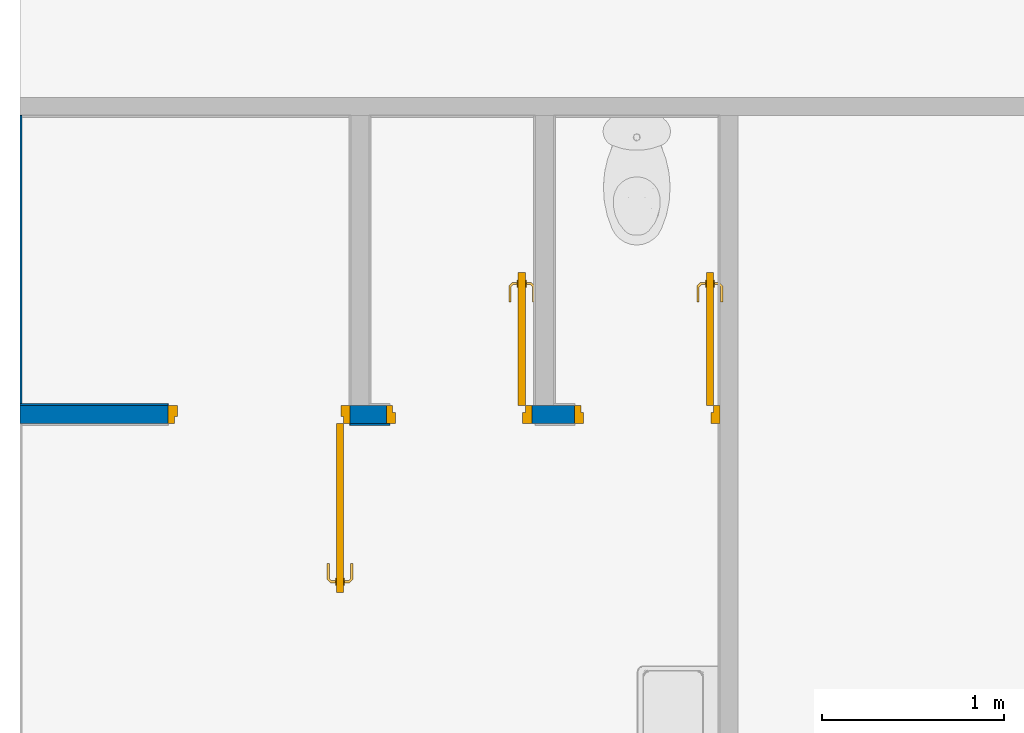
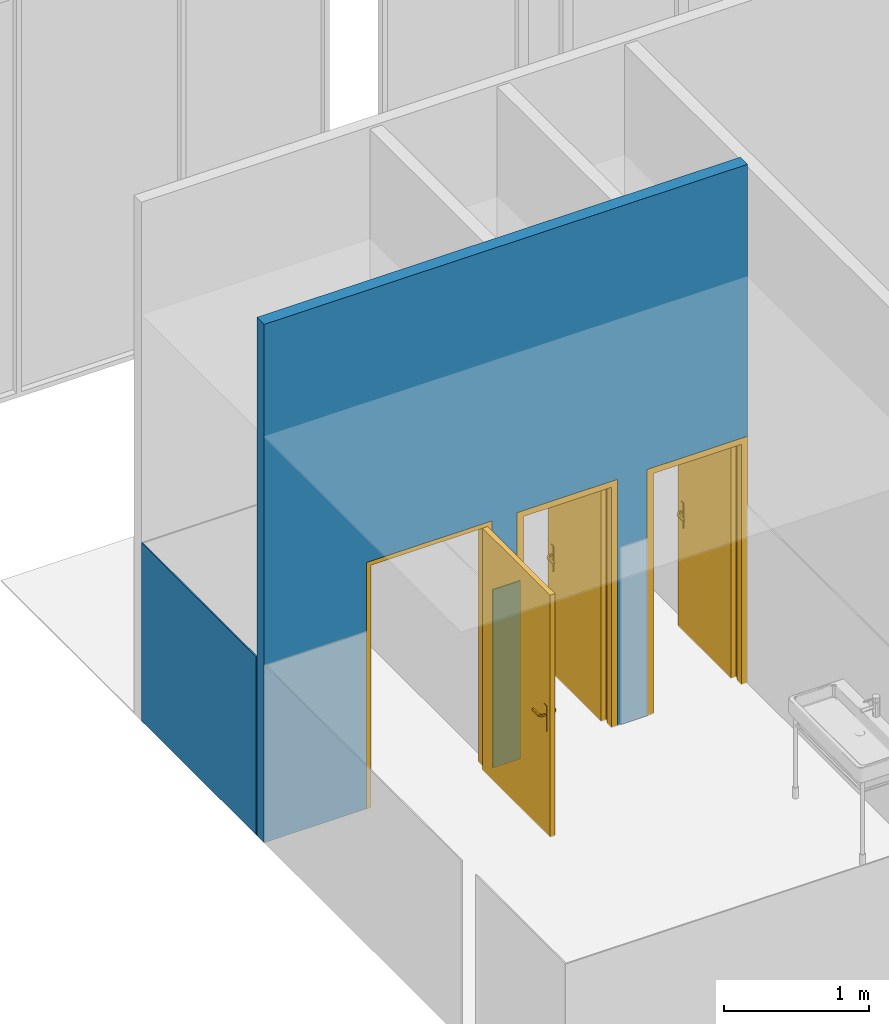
# One storey, part 3 of 18: 4 walls, 3 doors, 3 openings.
"""IFC2X3 building model written with IfcOpenShell, lengths in metres."""

from ifc_helpers import new_model, entity, si_unit, converted_unit, derived_unit, direction, frame, frame_2d, origin, place, context, subcontext, project, spatial, rectangle, extrude, faceted_brep, source, transform, mapped, material, layer, layer_set, layer_usage, type_object, type_shapes, element, fill, save


model = new_model("IFC2X3")

# Units and contexts
model_context = context("Model", 3, precision=1e-05, world=origin(), true_north=direction((6.12303176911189e-17, 1.0)))
body_context = subcontext(model_context, "Body", "Model", "MODEL_VIEW")
ifc_project = project(units=[si_unit("LENGTHUNIT", "METRE"), si_unit("AREAUNIT", "SQUARE_METRE"), si_unit("VOLUMEUNIT", "CUBIC_METRE"), converted_unit("PLANEANGLEUNIT", "DEGREE", entity("IfcRatioMeasure", 0.0174532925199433), si_unit("PLANEANGLEUNIT", "RADIAN"), dimensions=[0, 0, 0, 0, 0, 0, 0]), si_unit("MASSUNIT", "GRAM", prefix="KILO"), derived_unit("MASSDENSITYUNIT", [(si_unit("MASSUNIT", "GRAM", prefix="KILO"), 1), (si_unit("LENGTHUNIT", "METRE"), -3)]), si_unit("TIMEUNIT", "SECOND"), si_unit("FREQUENCYUNIT", "HERTZ"), si_unit("THERMODYNAMICTEMPERATUREUNIT", "DEGREE_CELSIUS"), derived_unit("THERMALTRANSMITTANCEUNIT", [(si_unit("MASSUNIT", "GRAM", prefix="KILO"), 1), (si_unit("THERMODYNAMICTEMPERATUREUNIT", "KELVIN"), -1), (si_unit("TIMEUNIT", "SECOND"), -3)]), derived_unit("VOLUMETRICFLOWRATEUNIT", [(si_unit("LENGTHUNIT", "METRE"), 3), (si_unit("TIMEUNIT", "SECOND"), -1)]), si_unit("ELECTRICCURRENTUNIT", "AMPERE"), si_unit("ELECTRICVOLTAGEUNIT", "VOLT"), si_unit("POWERUNIT", "WATT"), si_unit("FORCEUNIT", "NEWTON", prefix="KILO"), si_unit("ILLUMINANCEUNIT", "LUX"), si_unit("LUMINOUSFLUXUNIT", "LUMEN"), si_unit("LUMINOUSINTENSITYUNIT", "CANDELA"), derived_unit("USERDEFINED", [(si_unit("MASSUNIT", "GRAM", prefix="KILO"), -1), (si_unit("LENGTHUNIT", "METRE"), -2), (si_unit("TIMEUNIT", "SECOND"), 3), (si_unit("LUMINOUSFLUXUNIT", "LUMEN"), 1)]), derived_unit("LINEARVELOCITYUNIT", [(si_unit("LENGTHUNIT", "METRE"), 1), (si_unit("TIMEUNIT", "SECOND"), -1)]), si_unit("PRESSUREUNIT", "PASCAL"), derived_unit("USERDEFINED", [(si_unit("LENGTHUNIT", "METRE"), -2), (si_unit("MASSUNIT", "GRAM", prefix="KILO"), 1), (si_unit("TIMEUNIT", "SECOND"), -2)])], contexts=[model_context])

# Site, building, storey
site_placement = place(None, origin())
site = spatial("IfcSite", under=ifc_project, at=site_placement, Name="Surface", CompositionType="ELEMENT")
building_placement = place(site_placement, origin())
building = spatial("IfcBuilding", under=site, at=building_placement, Name="ExPREF", CompositionType="ELEMENT")
storey_placement = place(building_placement, frame((0.0, 0.0, -4.62)))
storey = spatial("IfcBuildingStorey", under=building, at=storey_placement, Name="R-1", CompositionType="ELEMENT", Elevation=-4.62)

# Wall, openings, doors
ifc_material_1 = material(Name="AA-parpaing")
ifc_layer_1 = layer(ifc_material_1, 0.1)
ifc_layer_set_1 = layer_set([ifc_layer_1], Name="Mur de base:A-mur parpaing 10")
ifc_layer_usage_1 = layer_usage(ifc_layer_set_1, "AXIS2", "POSITIVE", -0.05)
wall_type_1 = type_object("IfcWallType", Name="Mur de base:A-mur parpaing 10", PredefinedType="STANDARD", material=ifc_layer_set_1)
wall_1_placement = place(storey_placement, frame((33.5897436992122, -190.493464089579, 0.0)))
wall_1 = element("IfcWallStandardCase", 1, at=wall_1_placement, inside=storey, type_object=wall_type_1, material=ifc_layer_usage_1, Name="Mur de base:A-mur parpaing 10", ObjectType="Mur de base:A-mur parpaing 10", context=body_context, shape_type="SweptSolid", body=[
    extrude(rectangle(XDim=3.85000000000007, YDim=0.0999999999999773, at=frame_2d((1.92500000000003, 0.0), x_axis=(-1.0, 0.0))), origin(), (0.0, 0.0, 1.0), 4.3649999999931),
])
opening_1_placement = place(wall_1_placement, frame((3.05000000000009, -0.05, 0.0)))
opening_1 = element("IfcOpeningElement", 2, at=opening_1_placement, cuts=wall_1, Name="Porte intérieur bois:PP (0.73m x 2.04m):1", ObjectType="Opening", context=body_context, shape_type="SweptSolid", body=[
    extrude(rectangle(XDim=2.075, YDim=0.799999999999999, at=frame_2d((1.0375, 0.4), x_axis=(1.0, 0.0))), frame((0.0, 0.0, 0.0), z_axis=(0.0, 1.0, 0.0), x_axis=(0.0, 0.0, 1.0)), (0.0, 0.0, 1.0), 0.1),
])
opening_2_placement = place(wall_1_placement, frame((2.01500000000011, -0.05, 0.0)))
opening_2 = element("IfcOpeningElement", 3, at=opening_2_placement, cuts=wall_1, Name="Porte intérieur bois:PP (0.73m x 2.04m):1", ObjectType="Opening", context=body_context, shape_type="SweptSolid", body=[
    extrude(rectangle(XDim=2.075, YDim=0.799999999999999, at=frame_2d((1.0375, 0.4), x_axis=(1.0, 0.0))), frame((0.0, 0.0, 0.0), z_axis=(0.0, 1.0, 0.0), x_axis=(0.0, 0.0, 1.0)), (0.0, 0.0, 1.0), 0.1),
])
opening_3_placement = place(wall_1_placement, frame((1.81500000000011, 0.05, 0.0)))
opening_3 = element("IfcOpeningElement", 4, at=opening_3_placement, cuts=wall_1, Name="Porte intérieur bois:PP (0.93m x 2.04m):1", ObjectType="Opening", context=body_context, shape_type="SweptSolid", body=[
    extrude(rectangle(XDim=2.075, YDim=1.0, at=frame_2d((1.0375, 0.500000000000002), x_axis=(1.0, 0.0))), frame((0.0, 0.0, 0.0), z_axis=(0.0, -1.0, 0.0), x_axis=(0.0, 0.0, 1.0)), (0.0, 0.0, 1.0), 0.1),
])
ifc_material_2 = material(Name="AA-Blanc satiné")
door_style_1 = type_object("IfcDoorStyle", Name="PP (0.93m x 2.04m)", ConstructionType="NOTDEFINED", OperationType="SINGLE_SWING_LEFT", ParameterTakesPrecedence=False, Sizeable=False, material=ifc_material_2)
shared_shape_1 = source(origin(), body_context, "Body", "Brep", [
    faceted_brep([(0.919999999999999, -0.872025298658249, 1.00778044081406), (0.919999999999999, -0.876000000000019, 1.007), (0.919999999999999, -0.876000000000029, 0.992999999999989), (0.919999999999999, -0.872025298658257, 0.99221955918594), (0.919999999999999, -0.867974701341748, 0.992219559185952), (0.919999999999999, -0.863999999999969, 0.993000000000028), (0.919999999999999, -0.86399999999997, 1.007), (0.919999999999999, -0.867974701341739, 1.00778044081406), (0.897514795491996, -0.863999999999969, 0.993000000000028), (0.897514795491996, -0.863999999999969, 1.007), (0.895868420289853, -0.867974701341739, 1.00778044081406), (0.882054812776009, -0.854161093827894, 1.00778044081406), (0.8780042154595, -0.855838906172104, 1.00778044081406), (0.894190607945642, -0.872025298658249, 1.00778044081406), (0.892544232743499, -0.876000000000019, 1.007), (0.892544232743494, -0.876000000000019, 0.992999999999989), (0.894190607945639, -0.872025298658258, 0.99221955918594), (0.87800421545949, -0.855838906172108, 0.99221955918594), (0.882054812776, -0.854161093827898, 0.992219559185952), (0.895868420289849, -0.867974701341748, 0.992219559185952), (0.886029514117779, -0.852514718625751, 0.993000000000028), (0.886029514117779, -0.852514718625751, 1.007), (0.87402951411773, -0.857485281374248, 1.007), (0.874029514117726, -0.857485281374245, 0.992999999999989), (0.886029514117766, -0.769954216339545, 0.993000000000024), (0.882054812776, -0.769954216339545, 0.992219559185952), (0.87800421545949, -0.769954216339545, 0.99221955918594), (0.874029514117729, -0.769954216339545, 0.992999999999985), (0.87402951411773, -0.769954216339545, 1.007), (0.878004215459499, -0.769954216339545, 1.00778044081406), (0.882054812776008, -0.769954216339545, 1.00778044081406), (0.886029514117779, -0.769954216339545, 1.007), (0.886029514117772, -0.811234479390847, 0.993000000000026), (0.886029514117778, -0.811234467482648, 1.007), (0.880029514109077, -0.812057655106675, 1.0078786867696), (0.87402951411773, -0.81755479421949, 1.007), (0.874029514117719, -0.8175547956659, 0.992999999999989), (0.880029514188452, -0.812057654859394, 0.992121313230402)], [[[0, 1, 2, 3, 4, 5, 6, 7]], [[6, 5, 8, 9]], [[9, 10, 7, 6]], [[10, 11, 12, 13, 0, 7]], [[13, 14, 1, 0]], [[2, 1, 14, 15]], [[15, 16, 3, 2]], [[16, 17, 18, 19, 4, 3]], [[19, 8, 5, 4]], [[9, 8, 20, 21]], [[21, 11, 10, 9]], [[12, 22, 14, 13]], [[15, 14, 22, 23]], [[23, 17, 16, 15]], [[18, 20, 8, 19]], [[24, 25, 26, 27, 28, 29, 30, 31]], [[21, 20, 32, 24, 31, 33]], [[33, 30, 34]], [[35, 34, 29]], [[21, 33, 11]], [[33, 31, 30]], [[28, 35, 29]], [[22, 12, 35]], [[35, 12, 34]], [[12, 11, 34]], [[11, 33, 34]], [[29, 34, 30]], [[22, 35, 28, 27, 36, 23]], [[36, 26, 37]], [[27, 26, 36]], [[17, 23, 36]], [[37, 32, 18]], [[20, 18, 32]], [[32, 25, 24]], [[26, 25, 37]], [[25, 32, 37]], [[17, 36, 37]], [[17, 37, 18]]]),
    faceted_brep([(0.969999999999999, -0.872025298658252, 1.00778044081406), (0.969999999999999, -0.867974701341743, 1.00778044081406), (0.969999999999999, -0.863999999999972, 1.00699999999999), (0.969999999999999, -0.863999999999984, 0.993000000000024), (0.969999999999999, -0.867974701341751, 0.992219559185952), (0.969999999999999, -0.87202529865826, 0.99221955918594), (0.969999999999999, -0.876000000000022, 0.992999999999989), (0.969999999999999, -0.876000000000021, 1.007), (0.997650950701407, -0.876000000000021, 1.007), (0.996004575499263, -0.872025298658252, 1.00778044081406), (1.01205345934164, -0.855976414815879, 1.00778044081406), (1.00800286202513, -0.854298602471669, 1.00778044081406), (0.994326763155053, -0.867974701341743, 1.00778044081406), (0.992680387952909, -0.863999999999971, 1.007), (0.992680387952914, -0.863999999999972, 0.993000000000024), (0.994326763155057, -0.867974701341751, 0.992219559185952), (1.00800286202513, -0.854298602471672, 0.992219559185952), (1.01205345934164, -0.855976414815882, 0.99221955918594), (0.996004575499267, -0.87202529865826, 0.99221955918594), (0.997650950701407, -0.876000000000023, 0.992999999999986), (1.0160281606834, -0.857622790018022, 1.007), (1.00402816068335, -0.852652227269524, 1.007), (1.00402816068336, -0.852652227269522, 0.993000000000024), (1.01602816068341, -0.857622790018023, 0.992999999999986), (1.01602816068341, -0.769981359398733, 0.992999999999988), (1.01205345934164, -0.769981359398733, 0.99221955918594), (1.00800286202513, -0.769981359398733, 0.992219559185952), (1.00402816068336, -0.769981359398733, 0.993000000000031), (1.00402816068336, -0.769981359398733, 1.007), (1.00800286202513, -0.769981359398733, 1.00778044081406), (1.01205345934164, -0.769981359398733, 1.00778044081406), (1.01602816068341, -0.769981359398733, 1.00699999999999), (1.01602816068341, -0.817692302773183, 1.007), (1.01002816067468, -0.812139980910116, 1.0078786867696), (1.00402816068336, -0.811316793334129, 1.007), (1.00402816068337, -0.811316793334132, 0.993000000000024), (1.01002816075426, -0.812139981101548, 0.992121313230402), (1.01602816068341, -0.817692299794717, 0.992999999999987)], [[[0, 1, 2, 3, 4, 5, 6, 7]], [[8, 9, 0, 7]], [[9, 10, 11, 12, 1, 0]], [[12, 13, 2, 1]], [[3, 2, 13, 14]], [[14, 15, 4, 3]], [[15, 16, 17, 18, 5, 4]], [[18, 19, 6, 5]], [[7, 6, 19, 8]], [[20, 10, 9, 8]], [[11, 21, 13, 12]], [[14, 13, 21, 22]], [[22, 16, 15, 14]], [[17, 23, 19, 18]], [[8, 19, 23, 20]], [[24, 25, 26, 27, 28, 29, 30, 31]], [[32, 30, 33]], [[31, 30, 32]], [[10, 20, 32]], [[33, 34, 11]], [[21, 11, 34]], [[34, 29, 28]], [[30, 29, 33]], [[29, 34, 33]], [[10, 32, 33]], [[10, 33, 11]], [[22, 21, 34, 28, 27, 35]], [[35, 26, 36]], [[37, 36, 25]], [[22, 35, 16]], [[35, 27, 26]], [[24, 37, 25]], [[23, 17, 37]], [[37, 17, 36]], [[17, 16, 36]], [[16, 35, 36]], [[25, 36, 26]], [[20, 23, 37, 24, 31, 32]]]),
    faceted_brep([(0.924999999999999, -0.859647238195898, 0.866003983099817), (0.924999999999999, -0.849999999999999, 0.870000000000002), (0.924999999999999, -0.850000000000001, 1.08), (0.924999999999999, -0.8596472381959, 1.08399601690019), (0.924999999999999, -0.870000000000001, 1.08535898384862), (0.924999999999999, -0.880352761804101, 1.08399601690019), (0.924999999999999, -0.89, 1.08), (0.924999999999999, -0.889999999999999, 0.870000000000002), (0.924999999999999, -0.8803527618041, 0.866003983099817), (0.924999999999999, -0.869999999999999, 0.86464101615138), (0.919999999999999, -0.8596472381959, 1.08399601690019), (0.92, -0.850000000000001, 1.08), (0.92, -0.849999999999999, 0.870000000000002), (0.919999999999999, -0.859647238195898, 0.866003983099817), (0.919999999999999, -0.869999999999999, 0.86464101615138), (0.919999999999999, -0.8803527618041, 0.866003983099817), (0.919999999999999, -0.89, 0.870000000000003), (0.919999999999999, -0.89, 1.08), (0.919999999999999, -0.880352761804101, 1.08399601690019), (0.919999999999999, -0.870000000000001, 1.08535898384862)], [[[0, 1, 2, 3, 4, 5, 6, 7, 8, 9]], [[10, 11, 12, 13, 14, 15, 16, 17, 18, 19]], [[11, 10, 3, 2]], [[3, 10, 19, 4]], [[19, 18, 5, 4]], [[18, 17, 6, 5]], [[7, 6, 17, 16]], [[16, 15, 8, 7]], [[8, 15, 14, 9]], [[14, 13, 0, 9]], [[13, 12, 1, 0]], [[2, 1, 12, 11]]]),
    faceted_brep([(0.969999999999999, -0.859647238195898, 0.866003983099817), (0.969999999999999, -0.849999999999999, 0.870000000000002), (0.969999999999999, -0.850000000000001, 1.08), (0.969999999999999, -0.8596472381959, 1.08399601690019), (0.969999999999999, -0.87, 1.08535898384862), (0.969999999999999, -0.880352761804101, 1.08399601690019), (0.969999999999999, -0.89, 1.08), (0.969999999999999, -0.889999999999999, 0.870000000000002), (0.969999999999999, -0.8803527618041, 0.866003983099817), (0.969999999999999, -0.869999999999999, 0.86464101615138), (0.964999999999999, -0.8596472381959, 1.08399601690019), (0.965, -0.850000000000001, 1.08), (0.965, -0.849999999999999, 0.870000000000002), (0.964999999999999, -0.859647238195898, 0.866003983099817), (0.964999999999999, -0.869999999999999, 0.86464101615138), (0.964999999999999, -0.8803527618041, 0.866003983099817), (0.964999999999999, -0.89, 0.870000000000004), (0.964999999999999, -0.89, 1.08), (0.964999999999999, -0.880352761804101, 1.08399601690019), (0.964999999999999, -0.87, 1.08535898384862)], [[[0, 1, 2, 3, 4, 5, 6, 7, 8, 9]], [[10, 11, 12, 13, 14, 15, 16, 17, 18, 19]], [[16, 15, 8, 7]], [[8, 15, 14, 9]], [[14, 13, 0, 9]], [[13, 12, 1, 0]], [[2, 1, 12, 11]], [[11, 10, 3, 2]], [[3, 10, 19, 4]], [[19, 18, 5, 4]], [[18, 17, 6, 5]], [[7, 6, 17, 16]]]),
    faceted_brep([(0.924999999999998, -0.93, 2.04), (0.924999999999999, 0.0, 2.04), (0.924999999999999, 0.0, 0.0), (0.924999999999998, -0.93, 0.0), (0.964999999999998, -0.93, 2.04), (0.964999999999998, -0.93, 0.0), (0.965, 0.0, 0.0), (0.965, 0.0, 2.04)], [[[0, 1, 2, 3]], [[4, 5, 6, 7]], [[1, 0, 4, 7]], [[2, 1, 7, 6]], [[3, 2, 6, 5]], [[0, 3, 5, 4]]]),
    faceted_brep([(0.0, 0.0, 0.0), (0.0, 0.100000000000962, 0.0), (0.0499999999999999, 0.100000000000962, 0.0), (0.0499999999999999, 0.0400000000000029, 0.0), (0.0349999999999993, 0.0400000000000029, 0.0), (0.0349999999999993, 0.0, 0.0), (0.0, 0.0, 2.07500000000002), (0.0, 0.100000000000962, 2.07500000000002), (1.0, 0.100000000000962, 2.07500000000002), (1.0, 0.100000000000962, 0.0), (0.95, 0.100000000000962, 0.0), (0.95, 0.100000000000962, 2.025), (0.0500000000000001, 0.100000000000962, 2.025), (0.05, 0.0400000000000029, 2.025), (0.95, 0.0400000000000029, 2.025), (0.95, 0.0400000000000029, 0.0), (0.965, 0.0400000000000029, 0.0), (0.965, 0.0400000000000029, 2.04), (0.0349999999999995, 0.0400000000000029, 2.04), (0.0349999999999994, 0.0, 2.04), (0.965, 0.0, 2.04), (0.965, 0.0, 0.0), (1.0, 0.0, 0.0), (1.0, 0.0, 2.07500000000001)], [[[0, 1, 2, 3, 4, 5]], [[1, 0, 6, 7]], [[2, 1, 7, 8, 9, 10, 11, 12]], [[3, 2, 12, 13]], [[4, 3, 13, 14, 15, 16, 17, 18]], [[5, 4, 18, 19]], [[0, 5, 19, 20, 21, 22, 23, 6]], [[8, 23, 22, 9]], [[22, 21, 16, 15, 10, 9]], [[14, 11, 10, 15]], [[20, 17, 16, 21]], [[7, 6, 23, 8]], [[13, 12, 11, 14]], [[19, 18, 17, 20]]]),
])
type_shapes(door_style_1, [shared_shape_1])
door_1_placement = place(opening_3_placement, frame((-1.0, -0.0999999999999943, 0.0)))
door_1 = element("IfcDoor", 5, at=door_1_placement, inside=storey, type_object=door_style_1, material=ifc_material_2, Name="Porte intérieur bois:PP (0.93m x 2.04m)", ObjectType="PP (0.93m x 2.04m)", OverallHeight=2.075, OverallWidth=1.0, context=body_context, shape_type="MappedRepresentation", body=[
    mapped(shared_shape_1, transform((0.0, 0.0, 0.0), scale=1.0)),
])
fill(opening_3, door_1)
door_style_2 = type_object("IfcDoorStyle", Name="PP (0.73m x 2.04m)", ConstructionType="NOTDEFINED", OperationType="SINGLE_SWING_RIGHT", ParameterTakesPrecedence=False, Sizeable=False, material=ifc_material_2)
shared_shape_2 = source(origin(), body_context, "Body", "Brep", [
    faceted_brep([(0.150000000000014, -0.667974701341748, 0.992219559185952), (0.150000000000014, -0.672025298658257, 0.99221955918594), (0.150000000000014, -0.676000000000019, 0.992999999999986), (0.150000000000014, -0.676000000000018, 1.007), (0.150000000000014, -0.672025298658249, 1.00778044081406), (0.150000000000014, -0.667974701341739, 1.00778044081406), (0.150000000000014, -0.663999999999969, 1.007), (0.150000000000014, -0.663999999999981, 0.993000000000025), (0.172485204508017, -0.663999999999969, 1.007), (0.172485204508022, -0.663999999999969, 0.993000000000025), (0.174131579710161, -0.667974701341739, 1.00778044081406), (0.175809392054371, -0.672025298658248, 1.00778044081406), (0.191995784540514, -0.655838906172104, 1.00778044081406), (0.187945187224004, -0.654161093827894, 1.00778044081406), (0.177455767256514, -0.676000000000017, 1.007), (0.177455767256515, -0.676000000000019, 0.992999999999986), (0.175809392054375, -0.672025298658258, 0.99221955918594), (0.174131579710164, -0.667974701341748, 0.992219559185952), (0.187945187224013, -0.654161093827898, 0.992219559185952), (0.191995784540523, -0.655838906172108, 0.99221955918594), (0.183970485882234, -0.652514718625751, 1.007), (0.183970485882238, -0.652514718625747, 0.993000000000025), (0.195970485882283, -0.657485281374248, 1.007), (0.195970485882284, -0.657485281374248, 0.992999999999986), (0.187945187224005, -0.569954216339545, 1.00778044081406), (0.191995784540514, -0.569954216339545, 1.00778044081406), (0.195970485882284, -0.569954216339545, 1.007), (0.195970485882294, -0.569954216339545, 0.992999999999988), (0.191995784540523, -0.569954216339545, 0.99221955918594), (0.187945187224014, -0.569954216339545, 0.992219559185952), (0.183970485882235, -0.569954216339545, 0.993000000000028), (0.183970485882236, -0.569954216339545, 1.007), (0.183970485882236, -0.611234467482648, 1.007), (0.183970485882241, -0.611234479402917, 0.993000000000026), (0.189970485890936, -0.612057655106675, 1.0078786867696), (0.195970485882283, -0.617554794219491, 1.007), (0.195970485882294, -0.6175547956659, 0.992999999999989), (0.189970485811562, -0.612057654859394, 0.992121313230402)], [[[0, 1, 2, 3, 4, 5, 6, 7]], [[8, 9, 7, 6]], [[5, 10, 8, 6]], [[5, 4, 11, 12, 13, 10]], [[3, 14, 11, 4]], [[14, 3, 2, 15]], [[2, 1, 16, 15]], [[1, 0, 17, 18, 19, 16]], [[0, 7, 9, 17]], [[20, 21, 9, 8]], [[8, 10, 13, 20]], [[14, 22, 12, 11]], [[23, 22, 14, 15]], [[15, 16, 19, 23]], [[17, 9, 21, 18]], [[24, 25, 26, 27, 28, 29, 30, 31]], [[21, 20, 32, 31, 30, 33]], [[34, 24, 32]], [[25, 34, 35]], [[13, 32, 20]], [[24, 31, 32]], [[25, 35, 26]], [[35, 12, 22]], [[34, 12, 35]], [[34, 13, 12]], [[34, 32, 13]], [[24, 34, 25]], [[22, 23, 36, 27, 26, 35]], [[37, 28, 36]], [[36, 28, 27]], [[36, 23, 19]], [[18, 33, 37]], [[33, 18, 21]], [[30, 29, 33]], [[37, 29, 28]], [[37, 33, 29]], [[37, 36, 19]], [[18, 37, 19]]]),
    faceted_brep([(0.100000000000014, -0.667974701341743, 1.00778044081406), (0.100000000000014, -0.672025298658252, 1.00778044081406), (0.100000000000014, -0.676000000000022, 1.00699999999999), (0.100000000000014, -0.676000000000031, 0.992999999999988), (0.100000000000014, -0.67202529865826, 0.99221955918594), (0.100000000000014, -0.667974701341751, 0.992219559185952), (0.100000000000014, -0.663999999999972, 0.993000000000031), (0.100000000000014, -0.663999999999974, 1.007), (0.0739954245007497, -0.672025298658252, 1.00778044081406), (0.0723490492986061, -0.676000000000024, 1.007), (0.07567323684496, -0.667974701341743, 1.00778044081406), (0.061997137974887, -0.654298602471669, 1.00778044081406), (0.0579465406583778, -0.655976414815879, 1.00778044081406), (0.0773196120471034, -0.663999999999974, 1.007), (0.077319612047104, -0.663999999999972, 0.993000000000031), (0.0756732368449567, -0.667974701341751, 0.992219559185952), (0.0739954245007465, -0.67202529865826, 0.99221955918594), (0.0579465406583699, -0.655976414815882, 0.99221955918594), (0.0619971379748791, -0.654298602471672, 0.992219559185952), (0.0723490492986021, -0.676000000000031, 0.992999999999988), (0.0539718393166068, -0.657622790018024, 1.007), (0.0659718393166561, -0.652652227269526, 1.007), (0.0659718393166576, -0.652652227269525, 0.993000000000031), (0.0539718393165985, -0.657622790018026, 0.992999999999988), (0.0539718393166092, -0.569981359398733, 1.007), (0.0579465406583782, -0.569981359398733, 1.00778044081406), (0.0619971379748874, -0.569981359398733, 1.00778044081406), (0.0659718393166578, -0.569981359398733, 1.00699999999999), (0.0659718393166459, -0.569981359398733, 0.993000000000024), (0.0619971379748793, -0.569981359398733, 0.992219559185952), (0.0579465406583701, -0.569981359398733, 0.99221955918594), (0.0539718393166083, -0.569981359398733, 0.992999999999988), (0.0599718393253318, -0.612139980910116, 1.0078786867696), (0.0539718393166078, -0.617692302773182, 1.007), (0.0659718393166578, -0.611316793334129, 1.007), (0.0659718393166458, -0.611316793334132, 0.993000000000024), (0.0599718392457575, -0.612139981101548, 0.992121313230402), (0.0539718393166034, -0.617692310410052, 0.992999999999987)], [[[0, 1, 2, 3, 4, 5, 6, 7]], [[2, 1, 8, 9]], [[1, 0, 10, 11, 12, 8]], [[0, 7, 13, 10]], [[14, 13, 7, 6]], [[5, 15, 14, 6]], [[5, 4, 16, 17, 18, 15]], [[3, 19, 16, 4]], [[9, 19, 3, 2]], [[9, 8, 12, 20]], [[10, 13, 21, 11]], [[22, 21, 13, 14]], [[14, 15, 18, 22]], [[16, 19, 23, 17]], [[20, 23, 19, 9]], [[24, 25, 26, 27, 28, 29, 30, 31]], [[32, 25, 33]], [[33, 25, 24]], [[33, 20, 12]], [[11, 34, 32]], [[34, 11, 21]], [[27, 26, 34]], [[32, 26, 25]], [[32, 34, 26]], [[32, 33, 12]], [[11, 32, 12]], [[21, 22, 35, 28, 27, 34]], [[36, 29, 35]], [[30, 36, 37]], [[18, 35, 22]], [[29, 28, 35]], [[30, 37, 31]], [[37, 17, 23]], [[36, 17, 37]], [[36, 18, 17]], [[36, 35, 18]], [[29, 36, 30]], [[23, 20, 33, 24, 31, 37]]]),
    faceted_brep([(0.145000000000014, -0.69, 0.870000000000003), (0.145000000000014, -0.69, 1.08), (0.145000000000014, -0.680352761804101, 1.08399601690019), (0.145000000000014, -0.67, 1.08535898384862), (0.145000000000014, -0.6596472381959, 1.08399601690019), (0.145000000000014, -0.650000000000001, 1.08), (0.145000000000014, -0.649999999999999, 0.870000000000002), (0.145000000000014, -0.659647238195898, 0.866003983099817), (0.145000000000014, -0.669999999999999, 0.86464101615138), (0.145000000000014, -0.6803527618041, 0.866003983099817), (0.150000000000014, -0.67, 1.08535898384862), (0.150000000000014, -0.680352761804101, 1.08399601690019), (0.150000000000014, -0.69, 1.08), (0.150000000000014, -0.689999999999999, 0.870000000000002), (0.150000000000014, -0.6803527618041, 0.866003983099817), (0.150000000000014, -0.669999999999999, 0.86464101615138), (0.150000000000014, -0.659647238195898, 0.866003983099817), (0.150000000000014, -0.649999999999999, 0.870000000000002), (0.150000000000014, -0.650000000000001, 1.08), (0.150000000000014, -0.6596472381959, 1.08399601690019)], [[[0, 1, 2, 3, 4, 5, 6, 7, 8, 9]], [[10, 11, 12, 13, 14, 15, 16, 17, 18, 19]], [[4, 19, 18, 5]], [[3, 10, 19, 4]], [[2, 11, 10, 3]], [[2, 1, 12, 11]], [[13, 12, 1, 0]], [[9, 14, 13, 0]], [[8, 15, 14, 9]], [[7, 16, 15, 8]], [[7, 6, 17, 16]], [[17, 6, 5, 18]]]),
    faceted_brep([(0.100000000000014, -0.69, 0.870000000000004), (0.100000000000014, -0.69, 1.08), (0.100000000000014, -0.680352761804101, 1.08399601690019), (0.100000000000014, -0.67, 1.08535898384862), (0.100000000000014, -0.6596472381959, 1.08399601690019), (0.100000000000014, -0.650000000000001, 1.08), (0.100000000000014, -0.649999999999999, 0.870000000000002), (0.100000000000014, -0.659647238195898, 0.866003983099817), (0.100000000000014, -0.669999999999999, 0.86464101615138), (0.100000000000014, -0.6803527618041, 0.866003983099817), (0.105000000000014, -0.69, 1.08), (0.105000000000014, -0.689999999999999, 0.870000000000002), (0.105000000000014, -0.6803527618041, 0.866003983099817), (0.105000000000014, -0.669999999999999, 0.86464101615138), (0.105000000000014, -0.659647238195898, 0.866003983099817), (0.105000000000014, -0.649999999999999, 0.870000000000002), (0.105000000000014, -0.650000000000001, 1.08), (0.105000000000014, -0.6596472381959, 1.08399601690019), (0.105000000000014, -0.67, 1.08535898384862), (0.105000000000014, -0.680352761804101, 1.08399601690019)], [[[0, 1, 2, 3, 4, 5, 6, 7, 8, 9]], [[10, 11, 12, 13, 14, 15, 16, 17, 18, 19]], [[9, 12, 11, 0]], [[8, 13, 12, 9]], [[7, 14, 13, 8]], [[7, 6, 15, 14]], [[15, 6, 5, 16]], [[4, 17, 16, 5]], [[3, 18, 17, 4]], [[2, 19, 18, 3]], [[2, 1, 10, 19]], [[11, 10, 1, 0]]]),
    faceted_brep([(0.145000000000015, -0.73, 2.04), (0.145000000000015, -0.73, 0.0), (0.145000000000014, 0.0, 0.0), (0.145000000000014, 0.0, 2.04), (0.105000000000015, -0.73, 2.04), (0.105000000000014, 0.0, 2.04), (0.105000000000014, 0.0, 0.0), (0.105000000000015, -0.73, 0.0)], [[[0, 1, 2, 3]], [[4, 5, 6, 7]], [[3, 5, 4, 0]], [[2, 6, 5, 3]], [[1, 7, 6, 2]], [[0, 4, 7, 1]]]),
    faceted_brep([(0.870000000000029, 0.0, 0.0), (0.835000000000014, 0.0, 0.0), (0.835000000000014, 0.0400000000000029, 0.0), (0.820000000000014, 0.0400000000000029, 0.0), (0.820000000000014, 0.100000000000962, 0.0), (0.870000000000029, 0.100000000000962, 0.0), (0.870000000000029, 0.100000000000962, 2.07500000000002), (0.870000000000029, 0.0, 2.07500000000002), (0.820000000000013, 0.100000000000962, 2.025), (0.120000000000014, 0.100000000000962, 2.025), (0.120000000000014, 0.100000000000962, 0.0), (0.0699999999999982, 0.100000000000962, 0.0), (0.0699999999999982, 0.100000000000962, 2.07500000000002), (0.820000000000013, 0.0400000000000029, 2.025), (0.835000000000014, 0.0400000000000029, 2.04), (0.105000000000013, 0.0400000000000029, 2.04), (0.105000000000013, 0.0400000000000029, 0.0), (0.120000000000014, 0.0400000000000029, 0.0), (0.120000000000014, 0.0400000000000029, 2.025), (0.835000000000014, 0.0, 2.04), (0.0699999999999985, 0.0, 2.07500000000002), (0.0699999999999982, 0.0, 0.0), (0.105000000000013, 0.0, 0.0), (0.105000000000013, 0.0, 2.04)], [[[0, 1, 2, 3, 4, 5]], [[5, 6, 7, 0]], [[4, 8, 9, 10, 11, 12, 6, 5]], [[3, 13, 8, 4]], [[2, 14, 15, 16, 17, 18, 13, 3]], [[1, 19, 14, 2]], [[0, 7, 20, 21, 22, 23, 19, 1]], [[12, 11, 21, 20]], [[21, 11, 10, 17, 16, 22]], [[18, 17, 10, 9]], [[23, 22, 16, 15]], [[6, 12, 20, 7]], [[13, 18, 9, 8]], [[19, 23, 15, 14]]]),
])
type_shapes(door_style_2, [shared_shape_2])
door_2_placement = place(opening_1_placement, frame((0.870000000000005, 0.0999999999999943, 0.0), z_axis=(0.0, 0.0, 1.0), x_axis=(-1.0, 0.0, 0.0)))
door_2 = element("IfcDoor", 6, at=door_2_placement, inside=storey, type_object=door_style_2, material=ifc_material_2, Name="Porte intérieur bois:PP (0.73m x 2.04m)", ObjectType="PP (0.73m x 2.04m)", OverallHeight=2.075, OverallWidth=0.8, context=body_context, shape_type="MappedRepresentation", body=[
    mapped(shared_shape_2, transform((0.0, 0.0, 0.0), scale=1.0)),
])
fill(opening_1, door_2)
door_3_placement = place(opening_2_placement, frame((0.870000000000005, 0.0999999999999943, 0.0), z_axis=(0.0, 0.0, 1.0), x_axis=(-1.0, 0.0, 0.0)))
door_3 = element("IfcDoor", 7, at=door_3_placement, inside=storey, type_object=door_style_2, material=ifc_material_2, Name="Porte intérieur bois:PP (0.73m x 2.04m)", ObjectType="PP (0.73m x 2.04m)", OverallHeight=2.075, OverallWidth=0.8, context=body_context, shape_type="MappedRepresentation", body=[
    mapped(shared_shape_2, transform((0.0, 0.0, 0.0), scale=1.0)),
])
fill(opening_2, door_3)

# Walls
ifc_material_3 = material(Name="AA-sol carrelage")
ifc_layer_2 = layer(ifc_material_3, 0.01)
ifc_layer_set_2 = layer_set([ifc_layer_2], Name="Mur de base:A-carrelage")
ifc_layer_usage_2 = layer_usage(ifc_layer_set_2, "AXIS2", "NEGATIVE", 0.005)
wall_type_2 = type_object("IfcWallType", Name="Mur de base:A-carrelage", PredefinedType="STANDARD", material=ifc_layer_set_2)
wall_2_placement = place(storey_placement, frame((34.4047436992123, -190.438464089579, 0.0), z_axis=(0.0, 0.0, 1.0), x_axis=(-1.0, 0.0, 0.0)))
element("IfcWallStandardCase", 8, at=wall_2_placement, inside=storey, type_object=wall_type_2, material=ifc_layer_usage_2, Name="Mur de base:A-carrelage", ObjectType="Mur de base:A-carrelage", context=body_context, shape_type="SweptSolid", body=[
    extrude(rectangle(XDim=0.815000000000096, YDim=0.0100000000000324, at=frame_2d((0.407500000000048, 0.0), x_axis=(-1.0, 0.0))), origin(), (0.0, 0.0, 1.0), 1.5),
])
ifc_layer_usage_3 = layer_usage(ifc_layer_set_2, "AXIS2", "NEGATIVE", 0.005)
wall_3_placement = place(storey_placement, frame((33.5947436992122, -190.433464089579, 0.0), z_axis=(0.0, 0.0, 1.0), x_axis=(0.0, 1.0, 0.0)))
element("IfcWallStandardCase", 9, at=wall_3_placement, inside=storey, type_object=wall_type_2, material=ifc_layer_usage_3, Name="Mur de base:A-carrelage", ObjectType="Mur de base:A-carrelage", context=body_context, shape_type="SweptSolid", body=[
    extrude(rectangle(XDim=1.585, YDim=0.00999999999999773, at=frame_2d((0.792500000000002, 8.53483950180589e-16), x_axis=(-1.0, 0.0))), origin(), (0.0, 0.0, 1.0), 1.5),
])
ifc_layer_usage_4 = layer_usage(ifc_layer_set_2, "AXIS2", "NEGATIVE", 0.005)
wall_4_placement = place(storey_placement, frame((35.4047436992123, -190.548464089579, 0.0)))
element("IfcWallStandardCase", 10, at=wall_4_placement, inside=storey, type_object=wall_type_2, material=ifc_layer_usage_4, Name="Mur de base:A-carrelage", ObjectType="Mur de base:A-carrelage", context=body_context, shape_type="SweptSolid", body=[
    extrude(rectangle(XDim=0.219999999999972, YDim=0.0100000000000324, at=frame_2d((0.109999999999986, 0.0), x_axis=(-1.0, 0.0))), origin(), (0.0, 0.0, 1.0), 1.5),
])

save(model, "model.ifc")
